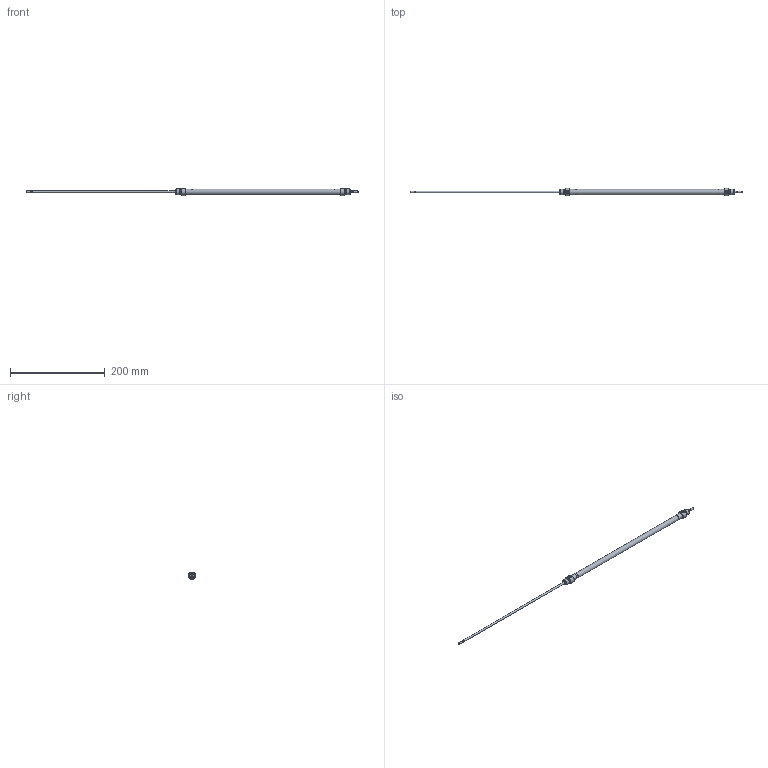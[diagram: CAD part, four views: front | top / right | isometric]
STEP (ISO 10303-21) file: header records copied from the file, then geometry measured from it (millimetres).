
FILE_DESCRIPTION( ( 'STEP AP203' ), '1' );
FILE_NAME( '//expscmdclustefs.cadenas.external/client_exchange/iodir/jobs/output/wkb68273449_no0/STEP/M101-010-0300--__0__2_03.stp', ' ', ( ' ' ), ( ' ' ), 'PSStep 15.0.47', 'PARTsolutions', ' ' );
FILE_SCHEMA( ( 'CONFIG_CONTROL_DESIGN' ) );
Length unit declared in the file: millimetre
Products named in the file (3): M101-010-0300-- [0]; HI_M101-010-0300---[0]-z; HI_M101-010-0300---[0]-k
Assembly tree (2 placements, depth 2):
  M101-010-0300-- [0]
    HI_M101-010-0300---[0]-z
    HI_M101-010-0300---[0]-k
Bounding box: 702 x 15.77 x 14.87 mm (x, y, z)
Volume: 23272.9 mm3; surface area: 33650.8 mm2
Topology: 2 solids, 2 shells, 71 faces, 145 edges, 88 vertices
Faces by surface type: plane 32, cylinder 23, cone 14, torus 2
Full cylindrical faces by diameter (mm): 3.141 x2, 4 x6, 4.134 x2, 10 x2, 10.466 x4, 11.3 x1, 12 x4
Entity records: 1832 total; most frequent: CARTESIAN_POINT 352, DIRECTION 312, ORIENTED_EDGE 212, AXIS2_PLACEMENT_3D 140, EDGE_LOOP 120, EDGE_CURVE 106, FACE_OUTER_BOUND 94, VERTEX_POINT 82
